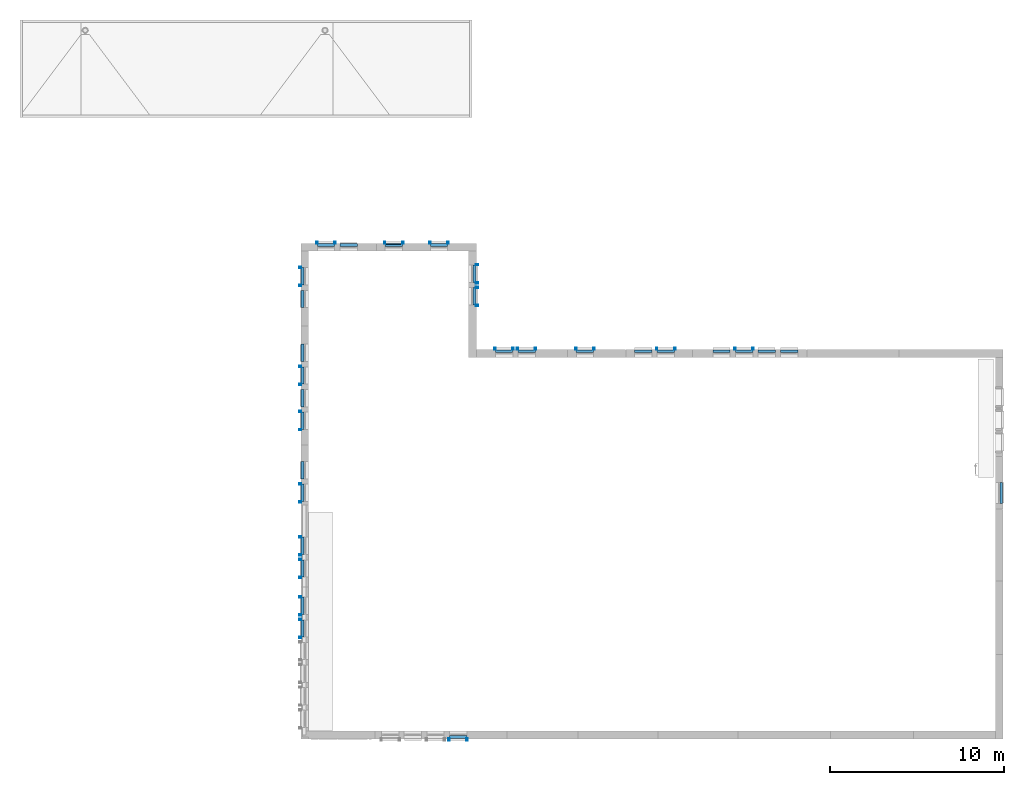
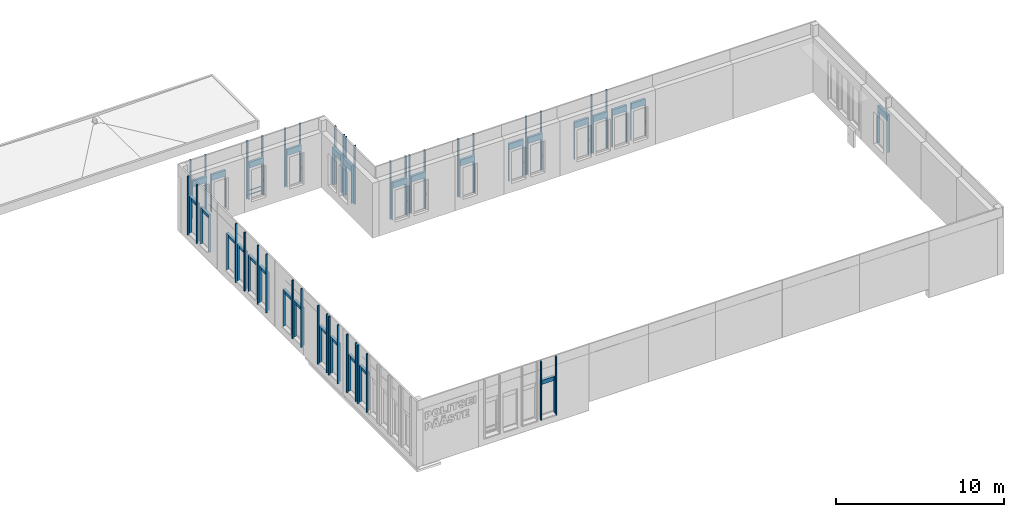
# One storey, part 30 of 33: 49 discrete accessories.
"""IFC2X3 building model written with IfcOpenShell, lengths in millimetres."""

from ifc_helpers import new_model, entity, si_unit, converted_unit, derived_unit, direction, frame, origin, origin_2d_with_axis, place, context, subcontext, project, spatial, polyline, rectangle, outline, extrude, faceted_brep, source, transform, mapped, material, type_object, type_shapes, element, save


model = new_model("IFC2X3")

# Units and contexts
model_context = context("Model", 3, precision=0.01, world=origin(), true_north=direction((6.12303176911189e-17, 1.0)))
body_context = subcontext(model_context, "Body", "Model", "MODEL_VIEW")
ifc_project = project(units=[si_unit("LENGTHUNIT", "METRE", prefix="MILLI"), si_unit("AREAUNIT", "SQUARE_METRE"), si_unit("VOLUMEUNIT", "CUBIC_METRE"), converted_unit("PLANEANGLEUNIT", "DEGREE", entity("IfcRatioMeasure", 0.0174532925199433), si_unit("PLANEANGLEUNIT", "RADIAN"), dimensions=[0, 0, 0, 0, 0, 0, 0]), si_unit("MASSUNIT", "GRAM", prefix="KILO"), derived_unit("MASSDENSITYUNIT", [(si_unit("MASSUNIT", "GRAM", prefix="KILO"), 1), (si_unit("LENGTHUNIT", "METRE"), -3)]), si_unit("TIMEUNIT", "SECOND"), si_unit("FREQUENCYUNIT", "HERTZ"), si_unit("THERMODYNAMICTEMPERATUREUNIT", "DEGREE_CELSIUS"), derived_unit("THERMALTRANSMITTANCEUNIT", [(si_unit("MASSUNIT", "GRAM", prefix="KILO"), 1), (si_unit("THERMODYNAMICTEMPERATUREUNIT", "KELVIN"), -1), (si_unit("TIMEUNIT", "SECOND"), -3)]), derived_unit("VOLUMETRICFLOWRATEUNIT", [(si_unit("LENGTHUNIT", "METRE"), 3), (si_unit("TIMEUNIT", "SECOND"), -1)]), si_unit("ELECTRICCURRENTUNIT", "AMPERE"), si_unit("ELECTRICVOLTAGEUNIT", "VOLT"), si_unit("POWERUNIT", "WATT"), si_unit("FORCEUNIT", "NEWTON", prefix="KILO"), si_unit("ILLUMINANCEUNIT", "LUX"), si_unit("LUMINOUSFLUXUNIT", "LUMEN"), si_unit("LUMINOUSINTENSITYUNIT", "CANDELA"), derived_unit("USERDEFINED", [(si_unit("MASSUNIT", "GRAM", prefix="KILO"), -1), (si_unit("LENGTHUNIT", "METRE"), -2), (si_unit("TIMEUNIT", "SECOND"), 3), (si_unit("LUMINOUSFLUXUNIT", "LUMEN"), 1)]), derived_unit("LINEARVELOCITYUNIT", [(si_unit("LENGTHUNIT", "METRE"), 1), (si_unit("TIMEUNIT", "SECOND"), -1)]), si_unit("PRESSUREUNIT", "PASCAL"), derived_unit("USERDEFINED", [(si_unit("LENGTHUNIT", "METRE"), -2), (si_unit("MASSUNIT", "GRAM", prefix="KILO"), 1), (si_unit("TIMEUNIT", "SECOND"), -2)])], contexts=[model_context])

# Site, building, storey
site_placement = place(None, origin())
site = spatial("IfcSite", under=ifc_project, at=site_placement, Name="Default", CompositionType="ELEMENT")
building_placement = place(site_placement, origin())
building = spatial("IfcBuilding", under=site, at=building_placement, CompositionType="ELEMENT")
storey_placement = place(building_placement, frame((0.0, 0.0, 4000.0)))
storey = spatial("IfcBuildingStorey", under=building, at=storey_placement, Name="2. KORRUS", CompositionType="ELEMENT", Elevation=4000.0)

# Discrete accessories
ifc_material_1 = material(Name="Must-al-komposiitplaat")
discrete_accessory_type_1 = type_object("IfcDiscreteAccessoryType", Name="hvp-piire", material=ifc_material_1)
shared_shape_1 = source(origin(), body_context, "Body", "SweptSolid", [
    extrude(outline(polyline([(-30.0, -20.0), (30.0, -20.0), (30.0, 20.0), (-30.0, 20.0), (-30.0, -20.0)]), holes=[polyline([(-27.0, -17.0), (-27.0, 17.0), (27.0, 17.0), (27.0, -17.0), (-27.0, -17.0)])]), frame((0.0, -20.0, 570.0), z_axis=(1.0, 0.0, 0.0), x_axis=(0.0, 0.0, -1.0)), (0.0, 0.0, 1.0), 1000.0),
    extrude(outline(polyline([(-30.0, -20.0), (30.0, -20.0), (30.0, 20.0), (-30.0, 20.0), (-30.0, -20.0)]), holes=[polyline([(-27.0, -17.0), (-27.0, 17.0), (27.0, 17.0), (27.0, -17.0), (-27.0, -17.0)])]), frame((0.0, -20.0, 270.0), z_axis=(1.0, 0.0, 0.0), x_axis=(0.0, 0.0, -1.0)), (0.0, 0.0, 1.0), 1000.0),
])
type_shapes(discrete_accessory_type_1, [shared_shape_1])
discrete_accessory_1_placement = place(storey_placement, frame((4400.0, 28020.0, 500.0)))
element("IfcDiscreteAccessory", 1, at=discrete_accessory_1_placement, inside=storey, type_object=discrete_accessory_type_1, material=ifc_material_1, Name="hädaväljapääsu-piire:hvp-piire", ObjectType="hvp-piire", context=body_context, shape_type="MappedRepresentation", body=[
    mapped(shared_shape_1, transform((0.0, 0.0, 0.0), scale=1.0)),
])
discrete_accessory_type_2 = type_object("IfcDiscreteAccessoryType", Name="akna-ylaplekid1000", material=ifc_material_1)
shared_shape_2 = source(origin(), body_context, "Body", "SweptSolid", [
    extrude(rectangle(XDim=20.0, YDim=959.999999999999, at=origin_2d_with_axis()), frame((0.0, -10.0, 2270.0), z_axis=(0.0, 0.0, 1.0), x_axis=(0.0, 1.0, 0.0)), (0.0, 0.0, 1.0), 409.999999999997),
    extrude(outline(polyline([(-500.0, -1370.0), (500.0, -1370.0), (500.0, 1360.0), (480.0, 1360.0), (480.0, -1350.0), (-480.0, -1350.0), (-480.0, 1360.0), (-500.0, 1360.0), (-500.0, -1370.0)])), frame((0.0, -160.0, 1330.0), z_axis=(0.0, 1.0, 0.0), x_axis=(1.0, 0.0, 0.0)), (0.0, 0.0, 1.0), 160.0),
])
type_shapes(discrete_accessory_type_2, [shared_shape_2])
for number, where, z_axis, x_axis, name in (
    (2, (27653.0493607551, 21770.0517807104, 500.0), (0.0, 0.0, 1.0), (-1.0, 0.0, 0.0), "akna-ylaplekid:akna-ylaplekid1000"),
    (3, (26353.0493607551, 21770.0517807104, 500.0), (0.0, 0.0, 1.0), (-1.0, 0.0, 0.0), "akna-ylaplekid:akna-ylaplekid1000"),
    (4, (25053.0493607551, 21770.0517807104, 500.0), (0.0, 0.0, 1.0), (-1.0, 0.0, 0.0), "akna-ylaplekid:akna-ylaplekid1000"),
    (5, (23750.0, 21770.0517807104, 500.0), (0.0, 0.0, 1.0), (-1.0, 0.0, 0.0), "akna-ylaplekid:akna-ylaplekid1000"),
    (6, (20550.0, 21770.0517807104, 500.0), (0.0, 0.0, 1.0), (-1.0, 0.0, 0.0), "akna-ylaplekid:akna-ylaplekid1000"),
    (7, (19250.0, 21770.0517807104, 500.0), (0.0, 0.0, 1.0), (-1.0, 0.0, 0.0), "akna-ylaplekid:akna-ylaplekid1000"),
    (8, (15893.3523740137, 21770.0517807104, 500.0), (0.0, 0.0, 1.0), (-1.0, 0.0, 0.0), "akna-ylaplekid:akna-ylaplekid1000"),
    (9, (12543.3481778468, 21770.0517807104, 500.0), (0.0, 0.0, 1.0), (-1.0, 0.0, 0.0), "akna-ylaplekid:akna-ylaplekid1000"),
    (10, (11243.3489407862, 21770.0517807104, 500.0), (0.0, 0.0, 1.0), (-1.0, 0.0, 0.0), "akna-ylaplekid:akna-ylaplekid1000"),
    (11, (9470.0, 25000.0027031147, 500.0), (0.0, 0.0, 1.0), (0.0, 1.0, 0.0), "akna-ylaplekid:akna-ylaplekid1000"),
    (12, (9470.0, 26300.0068278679, 500.0), (0.0, 0.0, 1.0), (0.0, 1.0, 0.0), "akna-ylaplekid:akna-ylaplekid1000"),
    (13, (7500.0, 27870.0, 500.0), (0.0, 0.0, 1.0), (-1.0, 0.0, 0.0), "akna-ylaplekid:akna-ylaplekid1000"),
    (14, (4899.9983362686, 27870.0, 500.0), (0.0, 0.0, 1.0), (-1.0, 0.0, 0.0), "akna-ylaplekid:akna-ylaplekid1000"),
    (15, (2300.00524004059, 27870.0, 500.0), (0.0, 0.0, 1.0), (-1.0, 0.0, 0.0), "akna-ylaplekid:akna-ylaplekid1000"),
    (16, (1000.00524004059, 27870.0, 500.0), (0.0, 0.0, 1.0), (-1.0, 0.0, 0.0), "akna-ylaplekid:akna-ylaplekid1000"),
    (17, (-270.0, 26149.9997172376, 500.0), (0.0, 0.0, 1.0), (0.0, -1.0, 0.0), "akna-ylaplekid:akna-ylaplekid1000"),
    (18, (-270.0, 24849.9997172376, 500.0), (0.0, 0.0, 1.0), (0.0, -1.0, 0.0), "akna-ylaplekid:akna-ylaplekid1000"),
    (19, (-270.0, 21750.0027031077, 500.0), (0.0, 0.0, 1.0), (0.0, -1.0, 0.0), "akna-ylaplekid:akna-ylaplekid1000"),
    (20, (-270.0, 20449.9988087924, 500.0), (0.0, 0.0, 1.0), (0.0, -1.0, 0.0), "akna-ylaplekid:akna-ylaplekid1000"),
    (21, (-270.0, 19149.9459673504, 500.0), (0.0, 0.0, 1.0), (0.0, -1.0, 0.0), "akna-ylaplekid:akna-ylaplekid1000"),
    (22, (-270.0, 17849.9459673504, 500.0), (0.0, 0.0, 1.0), (0.0, -1.0, 0.0), "akna-ylaplekid:akna-ylaplekid1000"),
    (23, (-270.0, 15000.0, 500.0), (0.0, 0.0, 1.0), (0.0, -1.0, 0.0), "akna-ylaplekid:akna-ylaplekid1000"),
    (24, (-270.0, 13700.0, 500.0), (0.0, 0.0, 1.0), (0.0, -1.0, 0.0), "akna-ylaplekid:akna-ylaplekid1000"),
    (25, (-270.0, 10650.0865686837, 500.0), (0.0, 0.0, 1.0), (0.0, -1.0, 0.0), "akna-ylaplekid:akna-ylaplekid1000"),
    (26, (-270.0, 9350.08656868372, 500.0), (0.0, 0.0, 1.0), (0.0, -1.0, 0.0), "akna-ylaplekid:akna-ylaplekid1000"),
    (27, (-270.0, 7200.13941012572, 500.0), (0.0, 0.0, 1.0), (0.0, -1.0, 0.0), "akna-ylaplekid:akna-ylaplekid1000"),
    (28, (-270.0, 5900.13941012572, 500.0), (0.0, 0.0, 1.0), (0.0, -1.0, 0.0), "akna-ylaplekid:akna-ylaplekid1000"),
):
    element("IfcDiscreteAccessory", number, at=place(storey_placement, frame(where, z_axis=z_axis, x_axis=x_axis)), inside=storey, type_object=discrete_accessory_type_2, material=ifc_material_1, Name=name, ObjectType="akna-ylaplekid1000", context=body_context, shape_type="MappedRepresentation", body=[
        mapped(shared_shape_2, transform((0.0, 0.0, 0.0), scale=1.0)),
    ])
discrete_accessory_2_placement = place(storey_placement, frame((8600.0241844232, -270.0, 500.0)))
element("IfcDiscreteAccessory", 29, at=discrete_accessory_2_placement, inside=storey, type_object=discrete_accessory_type_2, material=ifc_material_1, Name="akna-ylaplekid:akna-ylaplekid1000", ObjectType="akna-ylaplekid1000", context=body_context, shape_type="MappedRepresentation", body=[
    mapped(shared_shape_2, transform((0.0, 0.0, 0.0), scale=1.0)),
])
ifc_material_2 = material(Name="Default New Material-must-varv")
discrete_accessory_type_3 = type_object("IfcDiscreteAccessoryType", Name="1200", material=ifc_material_2)
shared_shape_3 = source(origin(), body_context, "Body", "SweptSolid", [
    extrude(rectangle(XDim=20.0, YDim=1160.0, at=origin_2d_with_axis()), frame((0.0, -10.0, 2270.0), z_axis=(0.0, 0.0, 1.0), x_axis=(0.0, 1.0, 0.0)), (0.0, 0.0, 1.0), 409.999999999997),
    extrude(outline(polyline([(-600.0, -1370.0), (600.0, -1370.0), (600.0, 1360.0), (580.0, 1360.0), (580.0, -1350.0), (-580.0, -1350.0), (-580.0, 1360.0), (-600.0, 1360.0), (-600.0, -1370.0)])), frame((0.0, -160.0, 1330.0), z_axis=(0.0, 1.0, 0.0), x_axis=(1.0, 0.0, 0.0)), (0.0, 0.0, 1.0), 160.0),
])
type_shapes(discrete_accessory_type_3, [shared_shape_3])
discrete_accessory_3_placement = place(storey_placement, frame((39770.0, 13700.0, 500.0), z_axis=(0.0, 0.0, 1.0), x_axis=(0.0, 1.0, 0.0)))
element("IfcDiscreteAccessory", 30, at=discrete_accessory_3_placement, inside=storey, type_object=discrete_accessory_type_3, material=ifc_material_2, Name="akna-ylaplekid:1200", ObjectType="1200", context=body_context, shape_type="MappedRepresentation", body=[
    mapped(shared_shape_3, transform((0.0, 0.0, 0.0), scale=1.0)),
])
discrete_accessory_type_4 = type_object("IfcDiscreteAccessoryType", Name="akna-ylaplekid1000", material=ifc_material_2)
shared_shape_4 = source(origin(), body_context, "Body", "Brep", [
    faceted_brep([(1120.0, 0.0, 0.0), (1040.0, 0.0, 0.0), (1040.0, 120.0, 0.0), (1044.0, 120.0, 0.0), (1044.0, 4.0, 0.0), (1116.0, 4.0, 0.0), (1116.0, 120.0, 0.0), (1120.0, 120.0, 0.0), (1120.0, 120.0, 4283.65923768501), (1120.0, 0.0, 4262.5), (1116.0, 119.999696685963, 4279.59747775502), (1044.0, 120.0, 4279.59575757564), (1040.0, 120.0, 4283.65923768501), (1116.0, 3.99969668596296, 4259.14354799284), (1116.0, 120.0, 4279.59575757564), (1044.0, 4.0, 4259.14360147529), (1116.0, 4.0, 4259.14182781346), (1044.0, 119.999696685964, 4279.59747775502), (1044.0, 4.0, 4259.14182781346), (1040.0, 0.0, 4262.5), (1116.0, 4.0, 4259.14360147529), (1044.0, 3.99969668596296, 4259.14354799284)], [[[0, 1, 2, 3, 4, 5, 6, 7]], [[0, 7, 8, 9]], [[8, 7, 6, 10, 11, 3, 2, 12]], [[6, 5, 13, 14]], [[5, 4, 15, 16]], [[4, 3, 17, 18]], [[12, 2, 1, 19]], [[19, 1, 0, 9]], [[17, 10, 20, 21]], [[12, 19, 9, 8]]]),
    faceted_brep([(80.0, 0.0, 0.0), (0.0, 0.0, 0.0), (0.0, 120.0, 0.0), (4.0, 120.0, 0.0), (4.0, 4.0, 0.0), (76.0, 4.0, 0.0), (76.0, 120.0, 0.0), (80.0, 120.0, 0.0), (80.0, 120.0, 4283.65746402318), (80.0, 0.0, 4262.49822633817), (76.0, 120.0, 4279.59575757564), (4.0, 120.0, 4279.59575757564), (0.0, 120.0, 4283.65746402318), (76.0, 4.0, 4259.14182781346), (4.0, 4.0, 4259.14182781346), (0.0, 0.0, 4262.49822633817)], [[[0, 1, 2, 3, 4, 5, 6, 7]], [[0, 7, 8, 9]], [[8, 7, 6, 10, 11, 3, 2, 12]], [[6, 5, 13, 10]], [[5, 4, 14, 13]], [[4, 3, 11, 14]], [[12, 2, 1, 15]], [[15, 1, 0, 9]], [[11, 10, 13, 14]], [[12, 15, 9, 8]]]),
])
type_shapes(discrete_accessory_type_4, [shared_shape_4])
for number, where, z_axis, x_axis in (
    (31, (-550.0, 26709.9997172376, 387.5), (0.0, 0.0, 1.0), (0.0, -1.0, 0.0)),
    (32, (-550.0, 21009.9988087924, 387.499999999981), (0.0, 0.0, 1.0), (0.0, -1.0, 0.0)),
    (33, (-550.0, 18409.9459673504, 387.5), (0.0, 0.0, 1.0), (0.0, -1.0, 0.0)),
    (34, (-550.0, 14259.9462500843, 387.5), (0.0, 0.0, 1.0), (0.0, -1.0, 0.0)),
    (35, (-550.0, 11210.0328187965, 387.49999999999), (0.0, 0.0, 1.0), (0.0, -1.0, 0.0)),
    (36, (-550.0, 9910.03281879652, 387.499999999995), (0.0, 0.0, 1.0), (0.0, -1.0, 0.0)),
    (37, (-550.0, 7760.08566023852, 387.499999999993), (0.0, 0.0, 1.0), (0.0, -1.0, 0.0)),
    (38, (-550.0, 6460.08566023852, 387.499999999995), (0.0, 0.0, 1.0), (0.0, -1.0, 0.0)),
    (39, (9750.0, 25740.0, 387.5), (0.0, 0.0, 1.0), (0.0, 1.0, 0.0)),
    (40, (9750.0, 24439.9958752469, 387.500000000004), (0.0, 0.0, 1.0), (0.0, 1.0, 0.0)),
):
    element("IfcDiscreteAccessory", number, at=place(storey_placement, frame(where, z_axis=z_axis, x_axis=x_axis)), inside=storey, type_object=discrete_accessory_type_4, material=ifc_material_2, Name="akna-ylaplekid_1k-U:akna-ylaplekid1000", ObjectType="akna-ylaplekid1000", context=body_context, shape_type="MappedRepresentation", body=[
        mapped(shared_shape_4, transform((0.0, 0.0, 0.0), scale=1.0)),
    ])
discrete_accessory_type_5 = type_object("IfcDiscreteAccessoryType", Name="akna-ylaplekid1000", material=ifc_material_2)
shared_shape_5 = source(origin(), body_context, "Body", "Brep", [
    faceted_brep([(1120.0, 120.0, 0.0), (1120.0, 0.0, 0.0), (1116.0, 0.0, 0.0), (1116.0, 116.0, 0.0), (1044.0, 116.0, 0.0), (1044.0, 0.0, 0.0), (1040.0, 0.0, 0.0), (1040.0, 120.0, 0.0), (1120.0, 120.0, 4262.5), (1120.0, 0.0, 4283.65923768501), (1040.0, 0.0, 4283.65923768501), (1044.0, 0.000303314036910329, 4279.59747775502), (1116.0, 0.0, 4279.59575757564), (1116.0, 0.000303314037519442, 4279.59747775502), (1116.0, 116.0, 4259.14182781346), (1116.0, 116.0, 4259.14360147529), (1044.0, 116.0, 4259.14182781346), (1044.0, 116.000303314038, 4259.14354799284), (1044.0, 0.0, 4279.59575757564), (1040.0, 120.0, 4262.5), (1044.0, 116.0, 4259.14360147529), (1116.0, 116.000303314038, 4259.14354799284)], [[[0, 1, 2, 3, 4, 5, 6, 7]], [[0, 8, 9, 1]], [[9, 10, 6, 5, 11, 12, 2, 1]], [[2, 13, 14, 3]], [[3, 15, 16, 4]], [[4, 17, 18, 5]], [[10, 19, 7, 6]], [[19, 8, 0, 7]], [[11, 20, 21, 13]], [[10, 9, 8, 19]]]),
    faceted_brep([(80.0, 120.0, 0.0), (80.0, 0.0, 0.0), (76.0, 0.0, 0.0), (76.0, 116.0, 0.0), (4.0, 116.0, 0.0), (4.0, 0.0, 0.0), (0.0, 0.0, 0.0), (0.0, 120.0, 0.0), (80.0, 120.0, 4262.49822633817), (80.0, 0.0, 4283.65746402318), (0.0, 0.0, 4283.65746402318), (4.0, 0.0, 4279.59575757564), (76.0, 0.0, 4279.59575757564), (76.0, 116.0, 4259.14182781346), (4.0, 116.0, 4259.14182781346), (0.0, 120.0, 4262.49822633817)], [[[0, 1, 2, 3, 4, 5, 6, 7]], [[0, 8, 9, 1]], [[9, 10, 6, 5, 11, 12, 2, 1]], [[2, 12, 13, 3]], [[3, 13, 14, 4]], [[4, 14, 11, 5]], [[10, 15, 7, 6]], [[15, 8, 0, 7]], [[11, 14, 13, 12]], [[10, 9, 8, 15]]]),
])
type_shapes(discrete_accessory_type_5, [shared_shape_5])
discrete_accessory_4_placement = place(storey_placement, frame((9160.02418442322, -430.0, 387.499999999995), z_axis=(0.0, 0.0, 1.0), x_axis=(-1.0, 0.0, 0.0)))
element("IfcDiscreteAccessory", 41, at=discrete_accessory_4_placement, inside=storey, type_object=discrete_accessory_type_5, material=ifc_material_2, Name="akna-ylaplekid_1k-U:akna-ylaplekid1000", ObjectType="akna-ylaplekid1000", context=body_context, shape_type="MappedRepresentation", body=[
    mapped(shared_shape_5, transform((0.0, 0.0, 0.0), scale=1.0)),
])
for number, where in (
    (42, (440.005240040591, 28030.0, 387.5)),
    (43, (4340.0, 28030.0, 387.5)),
    (44, (6940.0, 28030.0, 387.500000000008)),
    (45, (10683.3481342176, 21930.0517807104, 387.5)),
    (46, (11983.3481342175, 21930.0517807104, 387.500000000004)),
    (47, (15333.3527554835, 21930.0517807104, 387.50000000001)),
    (48, (19990.0, 21930.0517807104, 387.5)),
    (49, (24493.0493607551, 21930.0517807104, 387.500000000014)),
):
    element("IfcDiscreteAccessory", number, at=place(storey_placement, frame(where)), inside=storey, type_object=discrete_accessory_type_5, material=ifc_material_2, Name="akna-ylaplekid_1k-U:akna-ylaplekid1000", ObjectType="akna-ylaplekid1000", context=body_context, shape_type="MappedRepresentation", body=[
        mapped(shared_shape_5, transform((0.0, 0.0, 0.0), scale=1.0)),
    ])

save(model, "model.ifc")
